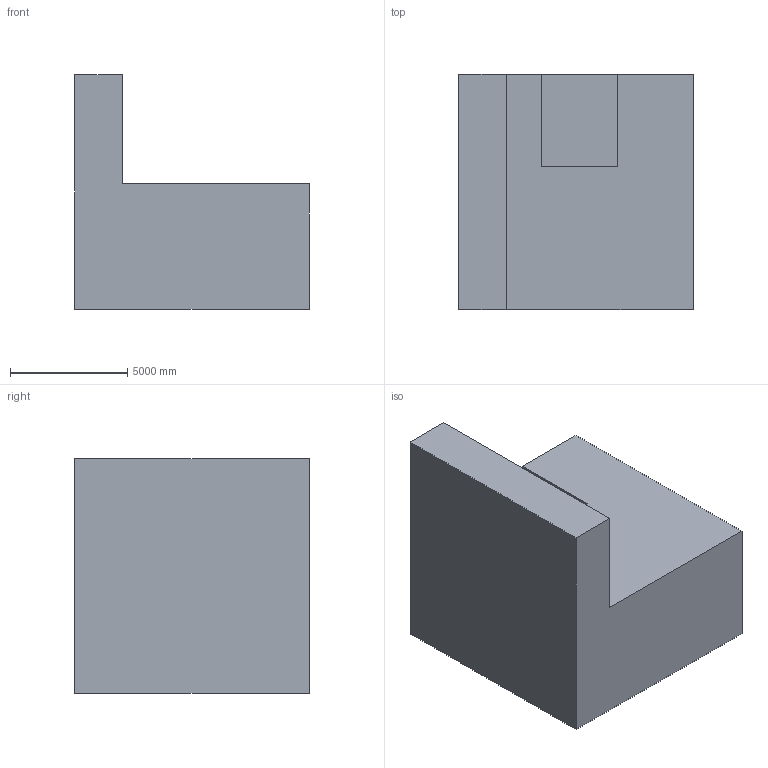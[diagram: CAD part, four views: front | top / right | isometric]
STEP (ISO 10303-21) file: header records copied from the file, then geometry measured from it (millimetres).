
FILE_DESCRIPTION (( 'STEP AP203' ), '1' );
FILE_NAME ('2.STEP', '2022-08-31T11:07:26', ( 'user' ), ( '' ), 'SwSTEP 2.0', 'SolidWorks 2021', '' );
FILE_SCHEMA (( 'CONFIG_CONTROL_DESIGN' ));
Length unit declared in the file: centimetre
Products named in the file (1): 2
Bounding box: 10000 x 10000 x 10000 mm (x, y, z)
Volume: 609966193928.4 mm3; surface area: 537745283 mm2
Topology: 1 solids, 1 shells, 12 faces, 30 edges, 20 vertices
Faces by surface type: plane 12
Entity records: 431 total; most frequent: CARTESIAN_POINT 63, ORIENTED_EDGE 60, DIRECTION 56, EDGE_CURVE 30, LINE 30, VECTOR 30, VERTEX_POINT 20, AXIS2_PLACEMENT_3D 13
